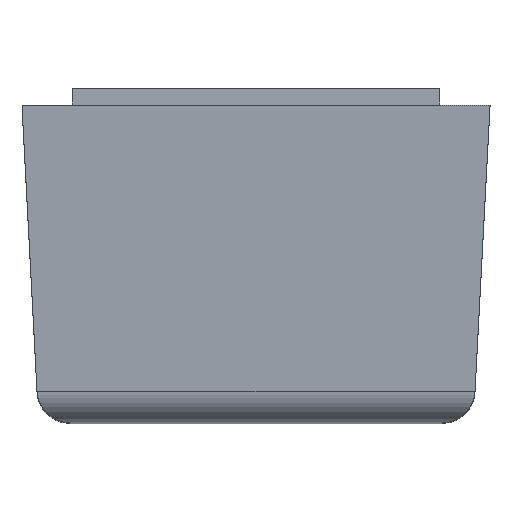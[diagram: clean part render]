
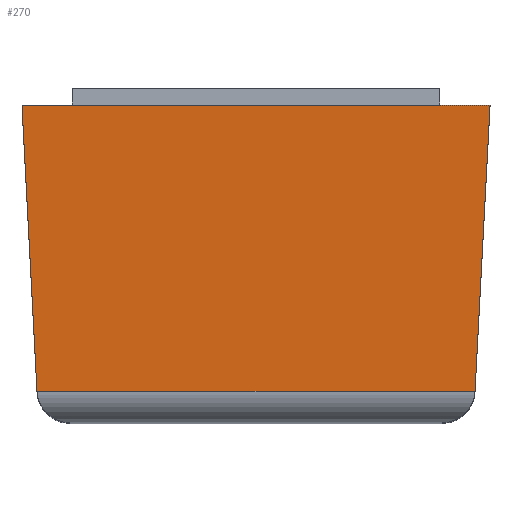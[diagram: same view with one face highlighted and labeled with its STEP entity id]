
A CAD part, top view. The second image highlights one B-rep face of the part: STEP entity #270.
In plain terms, the highlighted planar face has unit normal (0, -0.052, 0.999) as drawn and (0, 0.052, 0.999) by its records, which use the part's own axes.
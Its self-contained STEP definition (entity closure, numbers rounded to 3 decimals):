
#30=PLANE('',#293);
#46=FACE_OUTER_BOUND('',#62,.T.);
#62=EDGE_LOOP('',(#205,#206,#207,#208));
#78=LINE('',#397,#106);
#85=LINE('',#416,#113);
#88=LINE('',#422,#116);
#89=LINE('',#423,#117);
#106=VECTOR('',#316,2.621);
#113=VECTOR('',#337,1.715);
#116=VECTOR('',#342,1.715);
#117=VECTOR('',#343,2.8);
#135=VERTEX_POINT('',#394);
#136=VERTEX_POINT('',#396);
#141=VERTEX_POINT('',#415);
#143=VERTEX_POINT('',#421);
#155=EDGE_CURVE('',#135,#136,#78,.T.);
#165=EDGE_CURVE('',#141,#136,#85,.F.);
#168=EDGE_CURVE('',#143,#135,#88,.T.);
#169=EDGE_CURVE('',#143,#141,#89,.T.);
#205=ORIENTED_EDGE('',*,*,#155,.F.);
#206=ORIENTED_EDGE('',*,*,#168,.F.);
#207=ORIENTED_EDGE('',*,*,#169,.T.);
#208=ORIENTED_EDGE('',*,*,#165,.T.);
#270=ADVANCED_FACE('',(#46),#30,.T.);
#293=AXIS2_PLACEMENT_3D('',#420,#340,#341);
#316=DIRECTION('',(1.,0.,0.));
#337=DIRECTION('',(0.052,-0.997,0.052));
#340=DIRECTION('center_axis',(0.,0.052,0.999));
#341=DIRECTION('ref_axis',(1.,0.,0.));
#342=DIRECTION('',(0.052,0.997,-0.052));
#343=DIRECTION('',(1.,0.,0.));
#394=CARTESIAN_POINT('',(-1.31,1.71,1.56));
#396=CARTESIAN_POINT('',(1.31,1.71,1.56));
#397=CARTESIAN_POINT('',(-0.7,1.71,1.56));
#415=CARTESIAN_POINT('',(1.4,0.,1.65));
#416=CARTESIAN_POINT('',(1.396,0.073,1.646));
#420=CARTESIAN_POINT('Origin',(-1.4,0.,1.65));
#421=CARTESIAN_POINT('',(-1.4,0.,1.65));
#422=CARTESIAN_POINT('',(-1.395,0.086,1.645));
#423=CARTESIAN_POINT('',(-1.4,0.,1.65));
